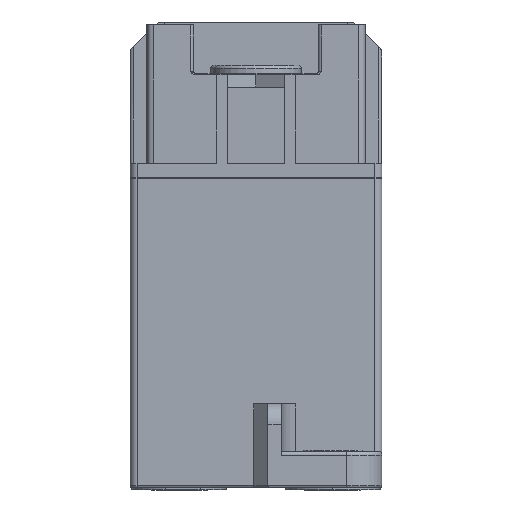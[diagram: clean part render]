
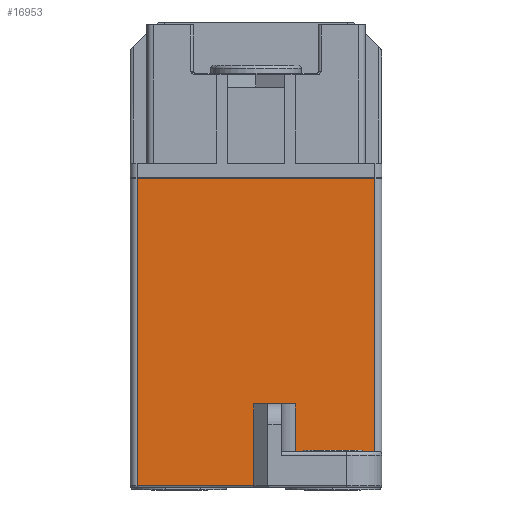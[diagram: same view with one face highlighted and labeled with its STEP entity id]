
A CAD part, left-side view. The second image highlights one B-rep face of the part: STEP entity #16953.
In plain terms, the highlighted planar face has unit normal (-1, 0, 0).
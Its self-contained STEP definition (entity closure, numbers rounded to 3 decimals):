
#1543 = VECTOR ( 'NONE', #26403, 1000. ) ;
#2071 = DIRECTION ( 'NONE',  ( 0., 1., 0. ) ) ;
#3638 = CARTESIAN_POINT ( 'NONE',  ( -24.5, -5.6, 0. ) ) ;
#4664 = DIRECTION ( 'NONE',  ( 0., -1., 0. ) ) ;
#4866 = LINE ( 'NONE', #11533, #6008 ) ;
#6008 = VECTOR ( 'NONE', #30457, 1000. ) ;
#6948 = CARTESIAN_POINT ( 'NONE',  ( -24.5, -17., 5.1 ) ) ;
#7337 = CARTESIAN_POINT ( 'NONE',  ( -24.5, 17., 0.2 ) ) ;
#7699 = CARTESIAN_POINT ( 'NONE',  ( -24.5, 18., 44.2 ) ) ;
#8212 = VERTEX_POINT ( 'NONE', #11090 ) ;
#8236 = CARTESIAN_POINT ( 'NONE',  ( -24.5, 0.3, 0.2 ) ) ;
#8858 = EDGE_CURVE ( 'NONE', #23965, #45760, #33515, .T. ) ;
#9033 = FACE_OUTER_BOUND ( 'NONE', #27580, .T. ) ;
#9709 = CARTESIAN_POINT ( 'NONE',  ( -24.5, 18., 44.2 ) ) ;
#10701 = VERTEX_POINT ( 'NONE', #39375 ) ;
#10847 = ORIENTED_EDGE ( 'NONE', *, *, #12722, .T. ) ;
#11090 = CARTESIAN_POINT ( 'NONE',  ( -24.5, -17., 44.2 ) ) ;
#11342 = EDGE_CURVE ( 'NONE', #10701, #12188, #15329, .T. ) ;
#11478 = EDGE_CURVE ( 'NONE', #12161, #33028, #28497, .T. ) ;
#11533 = CARTESIAN_POINT ( 'NONE',  ( -24.5, 18., 0.2 ) ) ;
#12161 = VERTEX_POINT ( 'NONE', #25470 ) ;
#12188 = VERTEX_POINT ( 'NONE', #21221 ) ;
#12722 = EDGE_CURVE ( 'NONE', #45760, #8212, #14363, .T. ) ;
#13021 = EDGE_CURVE ( 'NONE', #39092, #12188, #35524, .T. ) ;
#13160 = ORIENTED_EDGE ( 'NONE', *, *, #8858, .T. ) ;
#13241 = ORIENTED_EDGE ( 'NONE', *, *, #47112, .F. ) ;
#13283 = CARTESIAN_POINT ( 'NONE',  ( -24.5, -1.7, 11.9 ) ) ;
#13495 = EDGE_CURVE ( 'NONE', #23965, #10701, #22276, .T. ) ;
#14363 = LINE ( 'NONE', #44850, #34976 ) ;
#14623 = VECTOR ( 'NONE', #4664, 1000. ) ;
#15329 = LINE ( 'NONE', #13283, #40554 ) ;
#16148 = ORIENTED_EDGE ( 'NONE', *, *, #11478, .T. ) ;
#16953 = ADVANCED_FACE ( 'NONE', ( #9033 ), #34313, .F. ) ;
#18023 = DIRECTION ( 'NONE',  ( 0., 0., 1. ) ) ;
#18744 = CARTESIAN_POINT ( 'NONE',  ( -24.5, -18., 5.1 ) ) ;
#19589 = DIRECTION ( 'NONE',  ( 1., 0., 0. ) ) ;
#20832 = ORIENTED_EDGE ( 'NONE', *, *, #13495, .F. ) ;
#21221 = CARTESIAN_POINT ( 'NONE',  ( -24.5, 0.3, 11.9 ) ) ;
#22276 = LINE ( 'NONE', #3638, #42959 ) ;
#23965 = VERTEX_POINT ( 'NONE', #38531 ) ;
#25470 = CARTESIAN_POINT ( 'NONE',  ( -24.5, 17., 44.2 ) ) ;
#25996 = CARTESIAN_POINT ( 'NONE',  ( -24.5, 0.3, 0. ) ) ;
#26403 = DIRECTION ( 'NONE',  ( 0., 0., -1. ) ) ;
#27580 = EDGE_LOOP ( 'NONE', ( #16148, #40557, #44734, #29491, #20832, #13160, #10847, #13241 ) ) ;
#28497 = LINE ( 'NONE', #40837, #1543 ) ;
#28661 = VECTOR ( 'NONE', #18023, 1000. ) ;
#29134 = DIRECTION ( 'NONE',  ( 0., 0., 1. ) ) ;
#29422 = LINE ( 'NONE', #9709, #38010 ) ;
#29491 = ORIENTED_EDGE ( 'NONE', *, *, #11342, .F. ) ;
#30457 = DIRECTION ( 'NONE',  ( 0., -1., 0. ) ) ;
#33028 = VERTEX_POINT ( 'NONE', #7337 ) ;
#33189 = DIRECTION ( 'NONE',  ( 0., 0., 1. ) ) ;
#33515 = LINE ( 'NONE', #18744, #14623 ) ;
#34313 = PLANE ( 'NONE',  #43957 ) ;
#34976 = VECTOR ( 'NONE', #40499, 1000. ) ;
#35524 = LINE ( 'NONE', #25996, #28661 ) ;
#38010 = VECTOR ( 'NONE', #38725, 1000. ) ;
#38531 = CARTESIAN_POINT ( 'NONE',  ( -24.5, -5.6, 5.1 ) ) ;
#38545 = EDGE_CURVE ( 'NONE', #33028, #39092, #4866, .T. ) ;
#38725 = DIRECTION ( 'NONE',  ( 0., -1., 0. ) ) ;
#39092 = VERTEX_POINT ( 'NONE', #8236 ) ;
#39375 = CARTESIAN_POINT ( 'NONE',  ( -24.5, -5.6, 11.9 ) ) ;
#40499 = DIRECTION ( 'NONE',  ( 0., 0., 1. ) ) ;
#40554 = VECTOR ( 'NONE', #2071, 1000. ) ;
#40557 = ORIENTED_EDGE ( 'NONE', *, *, #38545, .T. ) ;
#40837 = CARTESIAN_POINT ( 'NONE',  ( -24.5, 17., 44.2 ) ) ;
#42959 = VECTOR ( 'NONE', #29134, 1000. ) ;
#43957 = AXIS2_PLACEMENT_3D ( 'NONE', #7699, #19589, #33189 ) ;
#44734 = ORIENTED_EDGE ( 'NONE', *, *, #13021, .T. ) ;
#44850 = CARTESIAN_POINT ( 'NONE',  ( -24.5, -17., 44.2 ) ) ;
#45760 = VERTEX_POINT ( 'NONE', #6948 ) ;
#47112 = EDGE_CURVE ( 'NONE', #12161, #8212, #29422, .T. ) ;
